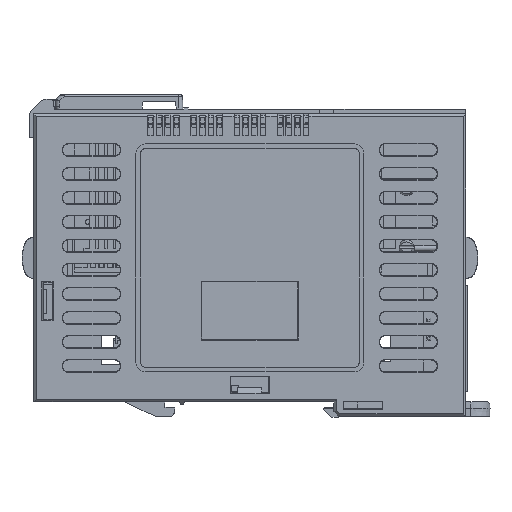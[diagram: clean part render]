
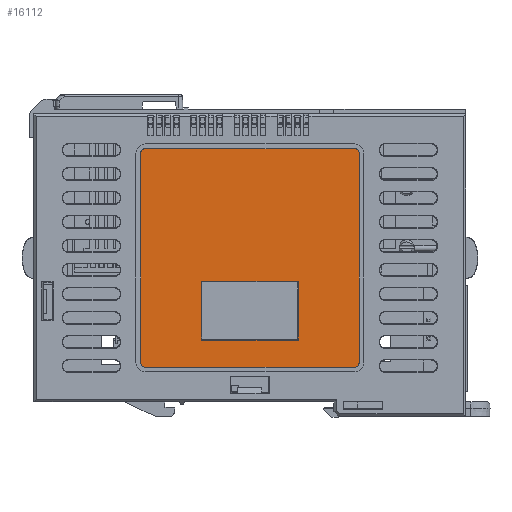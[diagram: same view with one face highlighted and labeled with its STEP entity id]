
A CAD part, left-side view. The second image highlights one B-rep face of the part: STEP entity #16112.
In plain terms, the highlighted planar face has unit normal (-1, 0, 0).
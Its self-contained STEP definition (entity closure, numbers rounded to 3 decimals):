
#812 = CARTESIAN_POINT ( 'NONE',  ( -25.9, 10.1, 0. ) ) ;
#4206 = AXIS2_PLACEMENT_3D ( 'NONE', #39577, #120016, #94412 ) ;
#4907 = CARTESIAN_POINT ( 'NONE',  ( -25.9, 10.1, -4.9 ) ) ;
#7933 = VERTEX_POINT ( 'NONE', #141251 ) ;
#8502 = LINE ( 'NONE', #95336, #80957 ) ;
#8508 = DIRECTION ( 'NONE',  ( 0., 0., -1. ) ) ;
#9278 = VERTEX_POINT ( 'NONE', #81240 ) ;
#9853 = CARTESIAN_POINT ( 'NONE',  ( -25.9, 21.75, -22.75 ) ) ;
#9899 = ORIENTED_EDGE ( 'NONE', *, *, #103419, .F. ) ;
#10477 = ORIENTED_EDGE ( 'NONE', *, *, #161775, .F. ) ;
#11908 = VECTOR ( 'NONE', #91340, 1000. ) ;
#13748 = LINE ( 'NONE', #59712, #62762 ) ;
#16112 = ADVANCED_FACE ( 'NONE', ( #85056, #99897 ), #172272, .F. ) ;
#17685 = CARTESIAN_POINT ( 'NONE',  ( -25.9, 22.75, 21.75 ) ) ;
#18688 = VECTOR ( 'NONE', #61650, 1000. ) ;
#20124 = VERTEX_POINT ( 'NONE', #9853 ) ;
#20260 = ORIENTED_EDGE ( 'NONE', *, *, #23737, .F. ) ;
#23576 = VERTEX_POINT ( 'NONE', #50851 ) ;
#23737 = EDGE_CURVE ( 'NONE', #115367, #155925, #154910, .T. ) ;
#24462 = DIRECTION ( 'NONE',  ( 1., 0., 0. ) ) ;
#25025 = DIRECTION ( 'NONE',  ( 0., 0., 1. ) ) ;
#26904 = LINE ( 'NONE', #77012, #11908 ) ;
#29098 = EDGE_LOOP ( 'NONE', ( #91447, #10477, #60785, #20260 ) ) ;
#32688 = CARTESIAN_POINT ( 'NONE',  ( -25.9, -21.75, 22.75 ) ) ;
#35546 = VECTOR ( 'NONE', #149683, 1000. ) ;
#39124 = DIRECTION ( 'NONE',  ( 0., 1., 0. ) ) ;
#39577 = CARTESIAN_POINT ( 'NONE',  ( -25.9, -21.75, 21.75 ) ) ;
#40484 = DIRECTION ( 'NONE',  ( 0., -1., 0. ) ) ;
#40565 = VERTEX_POINT ( 'NONE', #43349 ) ;
#43349 = CARTESIAN_POINT ( 'NONE',  ( -25.9, -22.75, 21.75 ) ) ;
#46810 = DIRECTION ( 'NONE',  ( 0., 0., 1. ) ) ;
#47382 = ORIENTED_EDGE ( 'NONE', *, *, #136598, .F. ) ;
#47419 = CARTESIAN_POINT ( 'NONE',  ( -25.9, 21.75, -21.75 ) ) ;
#48258 = ORIENTED_EDGE ( 'NONE', *, *, #73791, .F. ) ;
#48399 = CARTESIAN_POINT ( 'NONE',  ( -25.9, 0., 0. ) ) ;
#50851 = CARTESIAN_POINT ( 'NONE',  ( -25.9, 22.75, -21.75 ) ) ;
#51145 = CIRCLE ( 'NONE', #61284, 1. ) ;
#51418 = EDGE_LOOP ( 'NONE', ( #47382, #48258, #9899, #69836, #113577, #175516, #162534, #78072 ) ) ;
#52173 = LINE ( 'NONE', #108237, #146012 ) ;
#52234 = DIRECTION ( 'NONE',  ( 0., 0., 1. ) ) ;
#54956 = AXIS2_PLACEMENT_3D ( 'NONE', #48399, #61469, #8508 ) ;
#55994 = DIRECTION ( 'NONE',  ( 0., 0., -1. ) ) ;
#59510 = LINE ( 'NONE', #137567, #153383 ) ;
#59712 = CARTESIAN_POINT ( 'NONE',  ( -25.9, 0., -17.1 ) ) ;
#60785 = ORIENTED_EDGE ( 'NONE', *, *, #76848, .F. ) ;
#60819 = AXIS2_PLACEMENT_3D ( 'NONE', #47419, #155266, #46810 ) ;
#61284 = AXIS2_PLACEMENT_3D ( 'NONE', #147518, #92158, #52234 ) ;
#61469 = DIRECTION ( 'NONE',  ( 1., 0., 0. ) ) ;
#61650 = DIRECTION ( 'NONE',  ( 0., 1., 0. ) ) ;
#62762 = VECTOR ( 'NONE', #139573, 1000. ) ;
#64940 = CARTESIAN_POINT ( 'NONE',  ( -25.9, -10.1, -4.9 ) ) ;
#66244 = VERTEX_POINT ( 'NONE', #32688 ) ;
#69836 = ORIENTED_EDGE ( 'NONE', *, *, #73790, .F. ) ;
#73790 = EDGE_CURVE ( 'NONE', #120918, #66244, #59510, .T. ) ;
#73791 = EDGE_CURVE ( 'NONE', #40565, #125887, #8502, .T. ) ;
#76848 = EDGE_CURVE ( 'NONE', #155925, #7933, #13748, .T. ) ;
#77012 = CARTESIAN_POINT ( 'NONE',  ( -25.9, 22.75, 0. ) ) ;
#77143 = CARTESIAN_POINT ( 'NONE',  ( -25.9, 0., -4.9 ) ) ;
#78072 = ORIENTED_EDGE ( 'NONE', *, *, #160258, .F. ) ;
#79225 = CARTESIAN_POINT ( 'NONE',  ( -25.9, 21.75, 21.75 ) ) ;
#79347 = VECTOR ( 'NONE', #90065, 1000. ) ;
#80957 = VECTOR ( 'NONE', #55994, 1000. ) ;
#81240 = CARTESIAN_POINT ( 'NONE',  ( -25.9, -21.75, -22.75 ) ) ;
#81380 = EDGE_CURVE ( 'NONE', #23576, #113782, #26904, .T. ) ;
#85056 = FACE_BOUND ( 'NONE', #29098, .T. ) ;
#89587 = CIRCLE ( 'NONE', #144199, 1. ) ;
#90065 = DIRECTION ( 'NONE',  ( 0., 0., 1. ) ) ;
#90219 = EDGE_CURVE ( 'NONE', #113782, #120918, #89587, .T. ) ;
#91340 = DIRECTION ( 'NONE',  ( 0., 0., 1. ) ) ;
#91447 = ORIENTED_EDGE ( 'NONE', *, *, #125962, .F. ) ;
#92158 = DIRECTION ( 'NONE',  ( 1., 0., 0. ) ) ;
#94412 = DIRECTION ( 'NONE',  ( 0., 0., 1. ) ) ;
#95336 = CARTESIAN_POINT ( 'NONE',  ( -25.9, -22.75, 0. ) ) ;
#99897 = FACE_OUTER_BOUND ( 'NONE', #51418, .T. ) ;
#103419 = EDGE_CURVE ( 'NONE', #66244, #40565, #113864, .T. ) ;
#108237 = CARTESIAN_POINT ( 'NONE',  ( -25.9, 0., -22.75 ) ) ;
#113577 = ORIENTED_EDGE ( 'NONE', *, *, #90219, .F. ) ;
#113782 = VERTEX_POINT ( 'NONE', #17685 ) ;
#113864 = CIRCLE ( 'NONE', #4206, 1. ) ;
#115367 = VERTEX_POINT ( 'NONE', #4907 ) ;
#118562 = CARTESIAN_POINT ( 'NONE',  ( -25.9, -10.1, 0. ) ) ;
#120016 = DIRECTION ( 'NONE',  ( 1., 0., 0. ) ) ;
#120918 = VERTEX_POINT ( 'NONE', #129895 ) ;
#125887 = VERTEX_POINT ( 'NONE', #130118 ) ;
#125962 = EDGE_CURVE ( 'NONE', #153289, #115367, #167861, .T. ) ;
#129895 = CARTESIAN_POINT ( 'NONE',  ( -25.9, 21.75, 22.75 ) ) ;
#130118 = CARTESIAN_POINT ( 'NONE',  ( -25.9, -22.75, -21.75 ) ) ;
#130293 = EDGE_CURVE ( 'NONE', #20124, #23576, #142942, .T. ) ;
#136598 = EDGE_CURVE ( 'NONE', #125887, #9278, #51145, .T. ) ;
#137567 = CARTESIAN_POINT ( 'NONE',  ( -25.9, 0., 22.75 ) ) ;
#139573 = DIRECTION ( 'NONE',  ( 0., -1., 0. ) ) ;
#141251 = CARTESIAN_POINT ( 'NONE',  ( -25.9, -10.1, -17.1 ) ) ;
#142942 = CIRCLE ( 'NONE', #60819, 1. ) ;
#144199 = AXIS2_PLACEMENT_3D ( 'NONE', #79225, #24462, #25025 ) ;
#146012 = VECTOR ( 'NONE', #39124, 1000. ) ;
#147518 = CARTESIAN_POINT ( 'NONE',  ( -25.9, -21.75, -21.75 ) ) ;
#149683 = DIRECTION ( 'NONE',  ( 0., 0., -1. ) ) ;
#149762 = LINE ( 'NONE', #118562, #79347 ) ;
#153289 = VERTEX_POINT ( 'NONE', #64940 ) ;
#153383 = VECTOR ( 'NONE', #40484, 1000. ) ;
#154910 = LINE ( 'NONE', #812, #35546 ) ;
#155266 = DIRECTION ( 'NONE',  ( 1., 0., 0. ) ) ;
#155925 = VERTEX_POINT ( 'NONE', #170320 ) ;
#160258 = EDGE_CURVE ( 'NONE', #9278, #20124, #52173, .T. ) ;
#161775 = EDGE_CURVE ( 'NONE', #7933, #153289, #149762, .T. ) ;
#162534 = ORIENTED_EDGE ( 'NONE', *, *, #130293, .F. ) ;
#167861 = LINE ( 'NONE', #77143, #18688 ) ;
#170320 = CARTESIAN_POINT ( 'NONE',  ( -25.9, 10.1, -17.1 ) ) ;
#172272 = PLANE ( 'NONE',  #54956 ) ;
#175516 = ORIENTED_EDGE ( 'NONE', *, *, #81380, .F. ) ;
